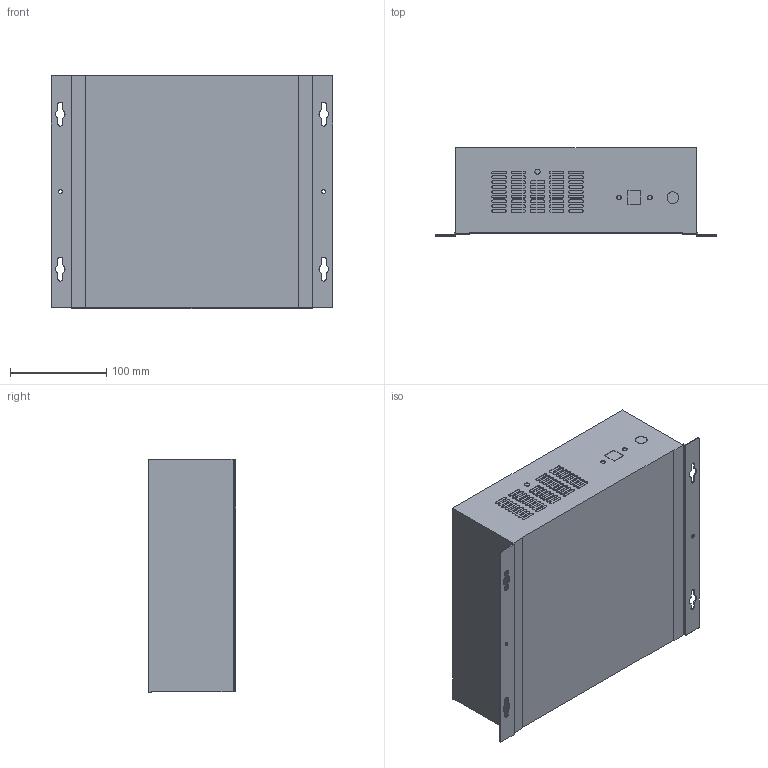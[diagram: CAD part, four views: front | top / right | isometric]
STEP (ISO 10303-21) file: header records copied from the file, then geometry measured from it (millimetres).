
FILE_DESCRIPTION (( 'STEP AP203' ), '1' );
FILE_NAME ('RK-601H.STEP', '2023-10-17T09:08:20', ( '微软用户' ), ( '微软中国' ), 'SwSTEP 2.0', 'SolidWorks 2022', '' );
FILE_SCHEMA (( 'CONFIG_CONTROL_DESIGN' ));
Length unit declared in the file: millimetre
Products named in the file (1): RK-601H
Bounding box: 293 x 91.3 x 243.2 mm (x, y, z)
Volume: 5055209.6 mm3; surface area: 243009.5 mm2
Topology: 1 solids, 1 shells, 710 faces, 1680 edges, 1120 vertices
Faces by surface type: cylinder 369, plane 337, cone 4
Entity records: 20896 total; most frequent: DIRECTION 3783, CARTESIAN_POINT 3706, ORIENTED_EDGE 3360, EDGE_CURVE 1680, AXIS2_PLACEMENT_3D 1457, VERTEX_POINT 1120, EDGE_LOOP 870, VECTOR 869
